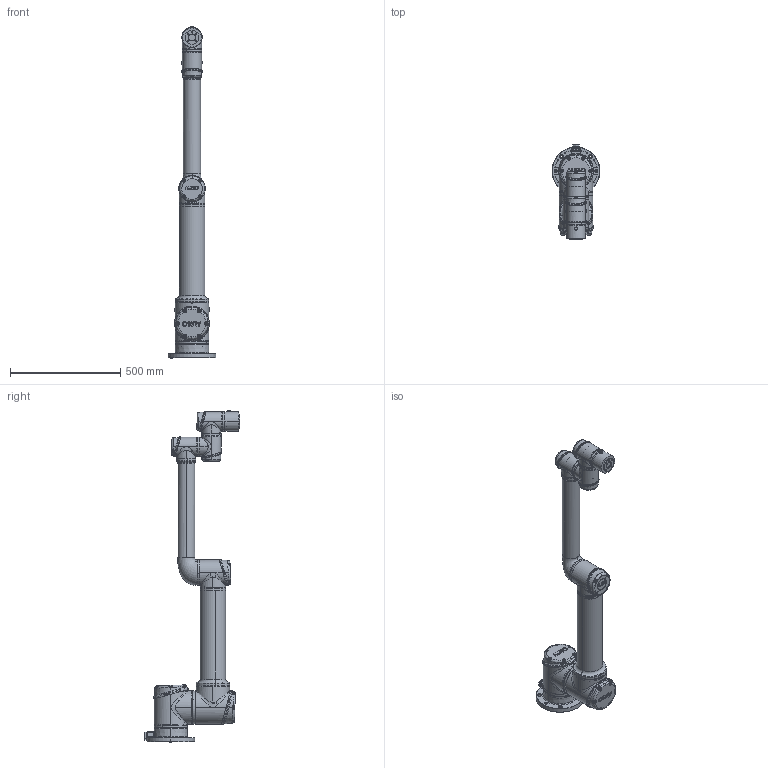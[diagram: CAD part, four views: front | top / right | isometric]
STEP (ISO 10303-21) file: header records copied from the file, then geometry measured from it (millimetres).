
FILE_DESCRIPTION (( 'STEP AP214' ), '1' );
FILE_NAME ('AUBO-iS10(FT)-DRW_Robot_Machine_A0.STEP', '2025-11-04T07:50:49', ( '' ), ( '' ), 'SwSTEP 2.0', 'SolidWorks 2024', '' );
FILE_SCHEMA (( 'AUTOMOTIVE_DESIGN' ));
Length unit declared in the file: millimetre
Products named in the file (7): iS10-大臂简化; M32P-关节简化; C1-B1087D-简化; AUBO-iS10(FT)-DRW_Robot_Machine_A0; iS10-小臂; iS10-底座简化; M17P-关节简化
Assembly tree (7 placements, depth 2):
  AUBO-iS10(FT)-DRW_Robot_Machine_A0
    iS10-大臂简化
    M32P-关节简化
    iS10-底座简化
    iS10-小臂
    M17P-关节简化  x2
    C1-B1087D-简化
Bounding box: 217.97 x 436.32 x 1509 mm (x, y, z)
Volume: 6976831.9 mm3; surface area: 1219900.6 mm2
Topology: 12 solids, 90 shells, 3556 faces, 8931 edges, 5673 vertices
Faces by surface type: plane 1230, cylinder 875, bspline 699, cone 407, torus 241, sphere 104
Entity records: 226826 total; most frequent: CARTESIAN_POINT 126541, ORIENTED_EDGE 16018, DIRECTION 11274, EDGE_CURVE 8012, VERTEX_POINT 5135, AXIS2_PLACEMENT_3D 4633, B_SPLINE_CURVE_WITH_KNOTS 3753, EDGE_LOOP 3541
